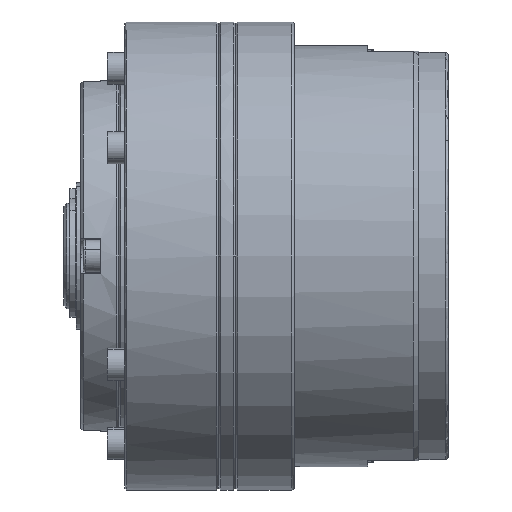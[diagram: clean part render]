
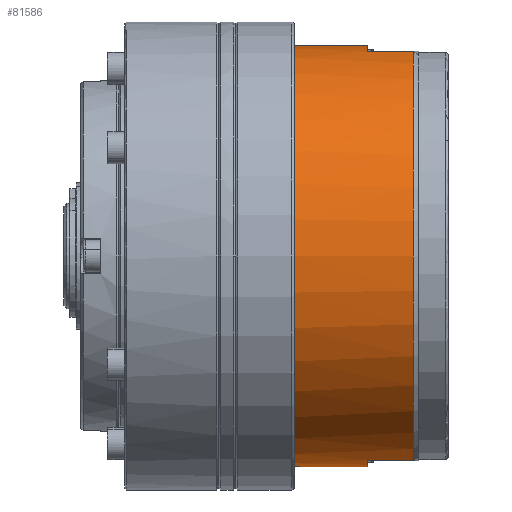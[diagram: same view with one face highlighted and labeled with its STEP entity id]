
A CAD part, left-side view. The second image highlights one B-rep face of the part: STEP entity #81586.
In plain terms, the highlighted cylindrical face has radius 36 mm (diameter 72 mm), a partial arc.
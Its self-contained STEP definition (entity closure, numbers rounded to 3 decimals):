
#301 = CARTESIAN_POINT ( 'NONE',  ( -8.743, 1., -34.922 ) ) ;
#466 = LINE ( 'NONE', #21836, #83935 ) ;
#1354 = ORIENTED_EDGE ( 'NONE', *, *, #75892, .F. ) ;
#3860 = CIRCLE ( 'NONE', #22874, 36. ) ;
#4744 = EDGE_CURVE ( 'NONE', #67507, #33419, #43920, .T. ) ;
#5430 = CARTESIAN_POINT ( 'NONE',  ( 0., 8.7, -36. ) ) ;
#8003 = CARTESIAN_POINT ( 'NONE',  ( -1.766, 8.7, 36. ) ) ;
#8191 = CARTESIAN_POINT ( 'NONE',  ( -7.03, 8.7, -35.351 ) ) ;
#8557 = EDGE_CURVE ( 'NONE', #90628, #82765, #3860, .T. ) ;
#8608 = CYLINDRICAL_SURFACE ( 'NONE', #28761, 36. ) ;
#9107 = LINE ( 'NONE', #90306, #55039 ) ;
#11213 = AXIS2_PLACEMENT_3D ( 'NONE', #131315, #16016, #136487 ) ;
#11527 = CARTESIAN_POINT ( 'NONE',  ( -8.743, 8.7, 34.922 ) ) ;
#13939 = B_SPLINE_CURVE_WITH_KNOTS ( 'NONE', 5,
 ( #116694, #8191, #84354, #95244, #117153, #128170 ),
 .UNSPECIFIED., .F., .F.,
 ( 6, 6 ),
 ( 0., 12.489 ),
 .UNSPECIFIED. ) ;
#16016 = DIRECTION ( 'NONE',  ( 0., 1., 0. ) ) ;
#21836 = CARTESIAN_POINT ( 'NONE',  ( 0., 143.637, -36. ) ) ;
#22874 = AXIS2_PLACEMENT_3D ( 'NONE', #136935, #104409, #83554 ) ;
#28761 = AXIS2_PLACEMENT_3D ( 'NONE', #104128, #138055, #82353 ) ;
#29429 = CARTESIAN_POINT ( 'NONE',  ( 0., 8.7, 36. ) ) ;
#33419 = VERTEX_POINT ( 'NONE', #42637 ) ;
#34819 = EDGE_LOOP ( 'NONE', ( #67067, #95418, #116867, #1354, #122986, #132138, #58637, #71859 ) ) ;
#38451 = VERTEX_POINT ( 'NONE', #56178 ) ;
#42381 = VERTEX_POINT ( 'NONE', #66383 ) ;
#42637 = CARTESIAN_POINT ( 'NONE',  ( -8.743, 1., 34.922 ) ) ;
#43920 = CIRCLE ( 'NONE', #11213, 36. ) ;
#44700 = VECTOR ( 'NONE', #92830, 1000. ) ;
#47512 = DIRECTION ( 'NONE',  ( 0., -1., 0. ) ) ;
#48983 = EDGE_CURVE ( 'NONE', #90628, #38451, #9107, .T. ) ;
#49918 = CARTESIAN_POINT ( 'NONE',  ( -7.03, 8.7, 35.351 ) ) ;
#53083 = LINE ( 'NONE', #140612, #92219 ) ;
#55039 = VECTOR ( 'NONE', #47512, 1000. ) ;
#56178 = CARTESIAN_POINT ( 'NONE',  ( 0., 8.7, 36. ) ) ;
#58637 = ORIENTED_EDGE ( 'NONE', *, *, #138901, .T. ) ;
#66383 = CARTESIAN_POINT ( 'NONE',  ( -8.743, 8.7, -34.922 ) ) ;
#67067 = ORIENTED_EDGE ( 'NONE', *, *, #48983, .F. ) ;
#67338 = EDGE_CURVE ( 'NONE', #38451, #73676, #117657, .T. ) ;
#67507 = VERTEX_POINT ( 'NONE', #301 ) ;
#68206 = FACE_OUTER_BOUND ( 'NONE', #34819, .T. ) ;
#71859 = ORIENTED_EDGE ( 'NONE', *, *, #67338, .F. ) ;
#72313 = CARTESIAN_POINT ( 'NONE',  ( -8.743, 8.7, 34.922 ) ) ;
#73573 = CARTESIAN_POINT ( 'NONE',  ( 0., 21.3, 36. ) ) ;
#73676 = VERTEX_POINT ( 'NONE', #11527 ) ;
#74169 = DIRECTION ( 'NONE',  ( 0., -1., 0. ) ) ;
#75892 = EDGE_CURVE ( 'NONE', #42381, #101025, #13939, .T. ) ;
#81586 = ADVANCED_FACE ( 'NONE', ( #68206 ), #8608, .T. ) ;
#82353 = DIRECTION ( 'NONE',  ( 0., 0., -1. ) ) ;
#82765 = VERTEX_POINT ( 'NONE', #88584 ) ;
#83554 = DIRECTION ( 'NONE',  ( 1., 0., 0. ) ) ;
#83935 = VECTOR ( 'NONE', #74169, 1000. ) ;
#84153 = CARTESIAN_POINT ( 'NONE',  ( -3.532, 8.7, 35.892 ) ) ;
#84354 = CARTESIAN_POINT ( 'NONE',  ( -5.29, 8.7, -35.675 ) ) ;
#88584 = CARTESIAN_POINT ( 'NONE',  ( 0., 21.3, -36. ) ) ;
#90306 = CARTESIAN_POINT ( 'NONE',  ( 0., 143.637, 36. ) ) ;
#90628 = VERTEX_POINT ( 'NONE', #73573 ) ;
#92219 = VECTOR ( 'NONE', #107232, 1000. ) ;
#92830 = DIRECTION ( 'NONE',  ( 0., -1., 0. ) ) ;
#95244 = CARTESIAN_POINT ( 'NONE',  ( -3.532, 8.7, -35.892 ) ) ;
#95418 = ORIENTED_EDGE ( 'NONE', *, *, #8557, .T. ) ;
#101025 = VERTEX_POINT ( 'NONE', #5430 ) ;
#104128 = CARTESIAN_POINT ( 'NONE',  ( 0., 143.637, 0. ) ) ;
#104409 = DIRECTION ( 'NONE',  ( 0., -1., 0. ) ) ;
#107232 = DIRECTION ( 'NONE',  ( 0., 1., 0. ) ) ;
#114464 = LINE ( 'NONE', #124297, #44700 ) ;
#114647 = CARTESIAN_POINT ( 'NONE',  ( -5.29, 8.7, 35.675 ) ) ;
#116694 = CARTESIAN_POINT ( 'NONE',  ( -8.743, 8.7, -34.922 ) ) ;
#116867 = ORIENTED_EDGE ( 'NONE', *, *, #138657, .T. ) ;
#117153 = CARTESIAN_POINT ( 'NONE',  ( -1.766, 8.7, -36. ) ) ;
#117657 = B_SPLINE_CURVE_WITH_KNOTS ( 'NONE', 5,
 ( #29429, #8003, #84153, #114647, #49918, #72313 ),
 .UNSPECIFIED., .F., .F.,
 ( 6, 6 ),
 ( 0., 12.489 ),
 .UNSPECIFIED. ) ;
#122986 = ORIENTED_EDGE ( 'NONE', *, *, #139311, .T. ) ;
#124297 = CARTESIAN_POINT ( 'NONE',  ( -8.743, 143.637, -34.922 ) ) ;
#128170 = CARTESIAN_POINT ( 'NONE',  ( 0., 8.7, -36. ) ) ;
#131315 = CARTESIAN_POINT ( 'NONE',  ( 0., 1., 0. ) ) ;
#132138 = ORIENTED_EDGE ( 'NONE', *, *, #4744, .T. ) ;
#136487 = DIRECTION ( 'NONE',  ( 1., 0., 0. ) ) ;
#136935 = CARTESIAN_POINT ( 'NONE',  ( 0., 21.3, 0. ) ) ;
#138055 = DIRECTION ( 'NONE',  ( 0., -1., 0. ) ) ;
#138657 = EDGE_CURVE ( 'NONE', #82765, #101025, #466, .T. ) ;
#138901 = EDGE_CURVE ( 'NONE', #33419, #73676, #53083, .T. ) ;
#139311 = EDGE_CURVE ( 'NONE', #42381, #67507, #114464, .T. ) ;
#140612 = CARTESIAN_POINT ( 'NONE',  ( -8.743, 143.637, 34.922 ) ) ;
